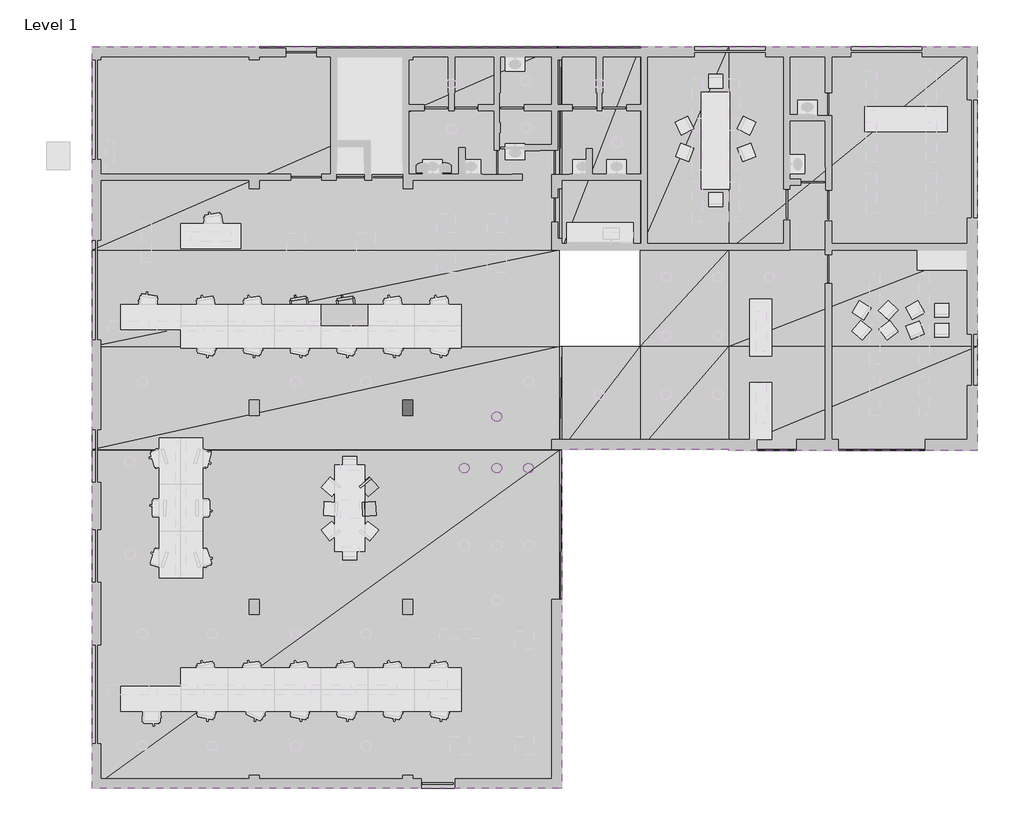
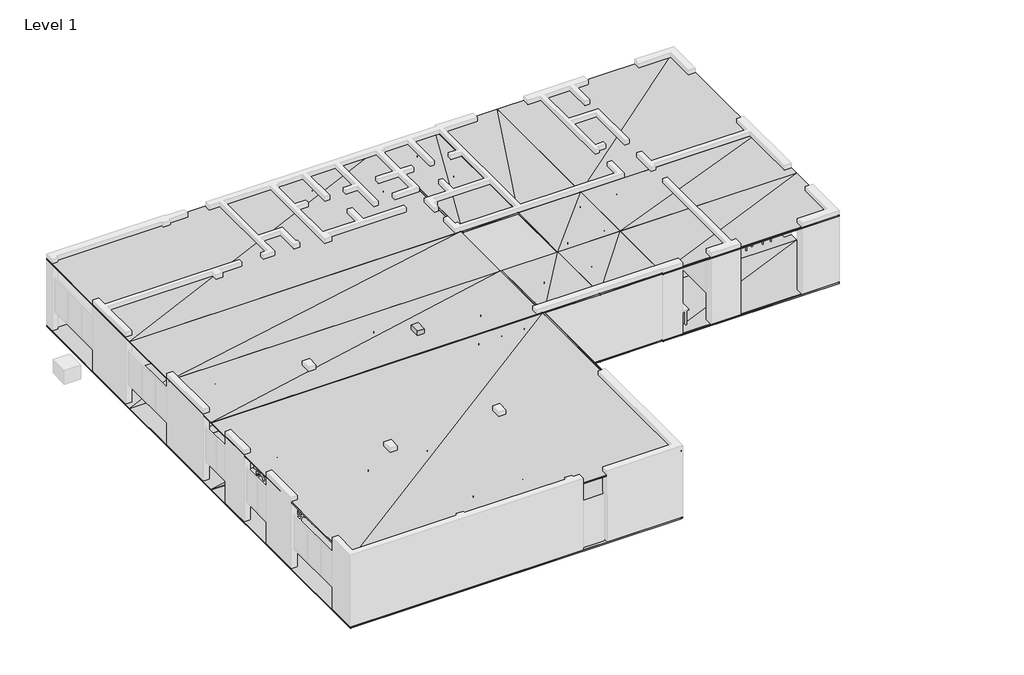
# One storey, part 8 of 14: 13 proxies.
"""IFC4 building model written with IfcOpenShell, lengths in millimetres."""

from ifc_helpers import new_model, si_unit, frame, origin, origin_with_axes, place, context, project, spatial, polyline, outline, extrude, faceted_brep, element, save

model = new_model("IFC4")

# Units and contexts
model_context = context("Model", 3, world=origin())
ifc_project = project(units=[si_unit("LENGTHUNIT", "METRE", prefix="MILLI")], contexts=[model_context])

# Site, building, storey
site = spatial("IfcSite", under=ifc_project)
building = spatial("IfcBuilding", under=site)
storey = spatial("IfcBuildingStorey", under=building, Name="Level 1", Elevation=0.0)

# Proxies
placement = place(None, origin())
element("IfcBuildingElementProxy", 1, Name="Generic Models", at=placement, inside=storey, context=model_context, shape_type="SweptSolid", body=[
    extrude(outline(polyline([(8256.826401, 14509.131432), (8256.826401, 13859.130859), (6856.826305, 13859.130859), (6856.826305, 14509.131432), (8256.826401, 14509.131432)])), frame((0.0, 0.0, 709.999979), z_axis=(0.0, 0.0, 1.0), x_axis=(1.0, 0.0, 0.0)), (0.0, 0.0, 1.0), 40.000021),
])
element("IfcBuildingElementProxy", 2, Name="Generic Models", at=placement, inside=storey, context=model_context, shape_type="Brep", body=[
    faceted_brep([(14006.0176849, 0.00035, -50.0000007), (6.8260939, 10130.0001144, -50.0000007), (14006.0176849, 10130.0001144, -50.0000007), (6.8260939, 0.00035, -50.0000007), (14006.0176849, 10130.0001144, 0.0), (6.8260939, 0.00035, 0.0), (14006.0176849, 0.00035, 0.0), (6.8260939, 10130.0001144, 0.0)], [[[0, 1, 2]], [[3, 1, 0]], [[4, 5, 6]], [[7, 5, 4]], [[6, 3, 0]], [[5, 3, 6]], [[4, 0, 2]], [[6, 0, 4]], [[7, 2, 1]], [[4, 2, 7]], [[5, 1, 3]], [[7, 1, 5]]]),
    faceted_brep([(14006.0176849, 10130.0001144, -50.0000007), (6.8260939, 10170.0000763, -50.0000007), (14006.0176849, 10170.0000763, -50.0000007), (6.8260939, 10130.0001144, -50.0000007), (14006.0176849, 10170.0000763, 0.0), (6.8260939, 10130.0001144, 0.0), (14006.0176849, 10130.0001144, 0.0), (6.8260939, 10170.0000763, 0.0)], [[[0, 1, 2]], [[3, 1, 0]], [[4, 5, 6]], [[7, 5, 4]], [[6, 3, 0]], [[5, 3, 6]], [[4, 0, 2]], [[6, 0, 4]], [[7, 2, 1]], [[4, 2, 7]], [[5, 1, 3]], [[7, 1, 5]]]),
    faceted_brep([(14006.0176849, 10170.0000763, -50.0000007), (6.8260939, 13252.0008087, -50.0000007), (14006.0176849, 13252.0008087, -50.0000007), (14006.0176849, 13252.0008087, 0.0), (6.8260939, 10170.0000763, 0.0), (14006.0176849, 10170.0000763, 0.0), (6.8260939, 10170.0000763, -50.0000007), (6.8260939, 13252.0008087, 0.0)], [[[0, 1, 2]], [[3, 4, 5]], [[4, 6, 5]], [[5, 0, 3]], [[4, 1, 6]], [[6, 1, 0]], [[7, 4, 3]], [[5, 6, 0]], [[3, 0, 2]], [[7, 2, 1]], [[3, 2, 7]], [[7, 1, 4]]]),
    faceted_brep([(14006.0176849, 16140.001297, 0.0), (6.8260939, 13252.0008087, 0.0), (14006.0176849, 13252.0008087, 0.0), (6.8260939, 13252.0008087, -50.0000007), (14006.0176849, 13252.0008087, -50.0000007), (6.8260939, 16140.001297, -50.0000007), (14006.0176849, 16140.001297, -50.0000007), (6.8260939, 16140.001297, 0.0)], [[[0, 1, 2]], [[1, 3, 2]], [[2, 4, 0]], [[1, 5, 3]], [[4, 5, 6]], [[3, 5, 4]], [[7, 1, 0]], [[2, 3, 4]], [[0, 4, 6]], [[7, 6, 5]], [[0, 6, 7]], [[7, 5, 1]]]),
    faceted_brep([(14006.0176849, 22250.0, 0.0), (6.8260939, 16140.001297, 0.0), (14006.0176849, 16140.001297, 0.0), (6.8260939, 16140.001297, -50.0000007), (14006.0176849, 16140.001297, -50.0000007), (6.8260939, 22250.0, -50.0000007), (14006.0176849, 22250.0, -50.0000007), (6.8260939, 22250.0, 0.0)], [[[0, 1, 2]], [[1, 3, 2]], [[2, 4, 0]], [[1, 5, 3]], [[4, 5, 6]], [[3, 5, 4]], [[7, 1, 0]], [[2, 3, 4]], [[0, 4, 6]], [[7, 6, 5]], [[0, 6, 7]], [[7, 5, 1]]]),
    faceted_brep([(14076.0173798, 10130.0001144, 0.0), (14006.0176849, 0.00035, 0.0), (14076.0173798, 0.00035, 0.0), (14006.0176849, 0.00035, -50.0000007), (14076.0173798, 0.00035, -50.0000007), (14006.0176849, 10130.0001144, -50.0000007), (14076.0173798, 10130.0001144, -50.0000007), (14006.0176849, 10130.0001144, 0.0)], [[[0, 1, 2]], [[1, 3, 2]], [[2, 4, 0]], [[1, 5, 3]], [[4, 5, 6]], [[3, 5, 4]], [[7, 1, 0]], [[2, 3, 4]], [[0, 4, 6]], [[7, 6, 5]], [[0, 6, 7]], [[7, 5, 1]]]),
    faceted_brep([(14006.0176849, 10170.0000763, 0.0), (14006.0176849, 10130.0001144, 0.0), (14076.0173798, 10170.0000763, 0.0), (14076.0173798, 10170.0000763, -50.0000007), (14076.0173798, 10130.0001144, -50.0000007), (14006.0176849, 10170.0000763, -50.0000007), (14006.0176849, 10130.0001144, -50.0000007), (14076.0173798, 10130.0001144, 0.0)], [[[0, 1, 2]], [[2, 3, 0]], [[4, 5, 3]], [[6, 5, 4]], [[2, 1, 7]], [[7, 6, 4]], [[1, 6, 7]], [[2, 4, 3]], [[7, 4, 2]], [[0, 3, 5]], [[1, 5, 6]], [[0, 5, 1]]]),
    faceted_brep([(14006.0176849, 13252.0008087, 0.0), (14006.0176849, 10170.0000763, 0.0), (14076.0173798, 13252.0008087, 0.0), (14076.0173798, 13252.0008087, -50.0000007), (14076.0173798, 10170.0000763, -50.0000007), (14006.0176849, 13252.0008087, -50.0000007), (14006.0176849, 10170.0000763, -50.0000007), (14076.0173798, 10170.0000763, 0.0)], [[[0, 1, 2]], [[2, 3, 0]], [[4, 5, 3]], [[6, 5, 4]], [[2, 1, 7]], [[7, 6, 4]], [[1, 6, 7]], [[2, 4, 3]], [[7, 4, 2]], [[0, 3, 5]], [[1, 5, 6]], [[0, 5, 1]]]),
    faceted_brep([(14076.0173798, 16140.001297, -50.0000007), (14006.0176849, 22250.0, -50.0000007), (14076.0173798, 22250.0, -50.0000007), (14006.0176849, 16140.001297, -50.0000007), (14076.0173798, 22250.0, 0.0), (14006.0176849, 16140.001297, 0.0), (14076.0173798, 16140.001297, 0.0), (14006.0176849, 22250.0, 0.0)], [[[0, 1, 2]], [[3, 1, 0]], [[4, 5, 6]], [[7, 5, 4]], [[6, 3, 0]], [[5, 3, 6]], [[4, 0, 2]], [[6, 0, 4]], [[7, 2, 1]], [[4, 2, 7]], [[5, 1, 3]], [[7, 1, 5]]]),
    faceted_brep([(16432.01828, 10170.0000763, -50.0000007), (14076.0173798, 13252.0008087, -50.0000007), (16432.01828, 13252.0008087, -50.0000007), (14076.0173798, 10170.0000763, -50.0000007), (16432.01828, 13252.0008087, 0.0), (14076.0173798, 10170.0000763, 0.0), (16432.01828, 10170.0000763, 0.0), (14076.0173798, 13252.0008087, 0.0)], [[[0, 1, 2]], [[3, 1, 0]], [[4, 5, 6]], [[7, 5, 4]], [[6, 3, 0]], [[5, 3, 6]], [[4, 0, 2]], [[6, 0, 4]], [[7, 2, 1]], [[4, 2, 7]], [[5, 1, 3]], [[7, 1, 5]]]),
    faceted_brep([(16432.01828, 16140.001297, -50.0000007), (14076.0173798, 22250.0, -50.0000007), (16432.01828, 22250.0, -50.0000007), (14076.0173798, 16140.001297, -50.0000007), (16432.01828, 22250.0, 0.0), (14076.0173798, 16140.001297, 0.0), (16432.01828, 16140.001297, 0.0), (14076.0173798, 22250.0, 0.0)], [[[0, 1, 2]], [[3, 1, 0]], [[4, 5, 6]], [[7, 5, 4]], [[6, 3, 0]], [[5, 3, 6]], [[4, 0, 2]], [[6, 0, 4]], [[7, 2, 1]], [[4, 2, 7]], [[5, 1, 3]], [[7, 1, 5]]]),
    faceted_brep([(19076.8260956, 10170.0000763, -50.0000007), (16432.01828, 13252.0008087, -50.0000007), (19076.8260956, 13252.0008087, -50.0000007), (16432.01828, 10170.0000763, -50.0000007), (19076.8260956, 13252.0008087, 0.0), (16432.01828, 10170.0000763, 0.0), (19076.8260956, 10170.0000763, 0.0), (16432.01828, 13252.0008087, 0.0)], [[[0, 1, 2]], [[3, 1, 0]], [[4, 5, 6]], [[7, 5, 4]], [[6, 3, 0]], [[5, 3, 6]], [[4, 0, 2]], [[6, 0, 4]], [[7, 2, 1]], [[4, 2, 7]], [[5, 1, 3]], [[7, 1, 5]]]),
    faceted_brep([(19076.8260956, 13252.0008087, -50.0000007), (16432.01828, 16140.001297, -50.0000007), (19076.8260956, 16140.001297, -50.0000007), (16432.01828, 13252.0008087, -50.0000007), (19076.8260956, 16140.001297, 0.0), (16432.01828, 13252.0008087, 0.0), (19076.8260956, 13252.0008087, 0.0), (16432.01828, 16140.001297, 0.0)], [[[0, 1, 2]], [[3, 1, 0]], [[4, 5, 6]], [[7, 5, 4]], [[6, 3, 0]], [[5, 3, 6]], [[4, 0, 2]], [[6, 0, 4]], [[7, 2, 1]], [[4, 2, 7]], [[5, 1, 3]], [[7, 1, 5]]]),
    faceted_brep([(19076.8260956, 16140.001297, -50.0000007), (16432.01828, 22250.0, -50.0000007), (19076.8260956, 22250.0, -50.0000007), (16432.01828, 16140.001297, -50.0000007), (19076.8260956, 22250.0, 0.0), (16432.01828, 16140.001297, 0.0), (19076.8260956, 16140.001297, 0.0), (16432.01828, 22250.0, 0.0)], [[[0, 1, 2]], [[3, 1, 0]], [[4, 5, 6]], [[7, 5, 4]], [[6, 3, 0]], [[5, 3, 6]], [[4, 0, 2]], [[6, 0, 4]], [[7, 2, 1]], [[4, 2, 7]], [[5, 1, 3]], [[7, 1, 5]]]),
    faceted_brep([(26536.0183716, 10130.0001144, -50.0000007), (19076.8260956, 10170.0000763, -50.0000007), (26536.0183716, 10170.0000763, -50.0000007), (19076.8260956, 10130.0001144, -50.0000007), (26536.0183716, 10170.0000763, 0.0), (19076.8260956, 10130.0001144, 0.0), (26536.0183716, 10130.0001144, 0.0), (19076.8260956, 10170.0000763, 0.0)], [[[0, 1, 2]], [[3, 1, 0]], [[4, 5, 6]], [[7, 5, 4]], [[6, 3, 0]], [[5, 3, 6]], [[4, 0, 2]], [[6, 0, 4]], [[7, 2, 1]], [[4, 2, 7]], [[5, 1, 3]], [[7, 1, 5]]]),
    faceted_brep([(26536.0183716, 10170.0000763, -50.0000007), (19076.8260956, 13252.0008087, -50.0000007), (26536.0183716, 13252.0008087, -50.0000007), (19076.8260956, 10170.0000763, -50.0000007), (26536.0183716, 13252.0008087, 0.0), (19076.8260956, 10170.0000763, 0.0), (26536.0183716, 10170.0000763, 0.0), (19076.8260956, 13252.0008087, 0.0)], [[[0, 1, 2]], [[3, 1, 0]], [[4, 5, 6]], [[7, 5, 4]], [[6, 3, 0]], [[5, 3, 6]], [[4, 0, 2]], [[6, 0, 4]], [[7, 2, 1]], [[4, 2, 7]], [[5, 1, 3]], [[7, 1, 5]]]),
    faceted_brep([(26536.0183716, 13252.0008087, -50.0000007), (19076.8260956, 16140.001297, -50.0000007), (26536.0183716, 16140.001297, -50.0000007), (19076.8260956, 13252.0008087, -50.0000007), (26536.0183716, 16140.001297, 0.0), (19076.8260956, 13252.0008087, 0.0), (26536.0183716, 13252.0008087, 0.0), (19076.8260956, 16140.001297, 0.0)], [[[0, 1, 2]], [[3, 1, 0]], [[4, 5, 6]], [[7, 5, 4]], [[6, 3, 0]], [[5, 3, 6]], [[4, 0, 2]], [[6, 0, 4]], [[7, 2, 1]], [[4, 2, 7]], [[5, 1, 3]], [[7, 1, 5]]]),
    faceted_brep([(26536.0183716, 16140.001297, -50.0000007), (19076.8260956, 22250.0, -50.0000007), (26536.0183716, 22250.0, -50.0000007), (19076.8260956, 16140.001297, -50.0000007), (26536.0183716, 22250.0, 0.0), (19076.8260956, 16140.001297, 0.0), (26536.0183716, 16140.001297, 0.0), (19076.8260956, 22250.0, 0.0)], [[[0, 1, 2]], [[3, 1, 0]], [[4, 5, 6]], [[7, 5, 4]], [[6, 3, 0]], [[5, 3, 6]], [[4, 0, 2]], [[6, 0, 4]], [[7, 2, 1]], [[4, 2, 7]], [[5, 1, 3]], [[7, 1, 5]]]),
])
element("IfcBuildingElementProxy", 3, Name="Generic Models", at=placement, inside=storey, context=model_context, shape_type="SweptSolid", body=[
    extrude(outline(polyline([(9306.017876, 11640.000343), (9606.017113, 11640.000343), (9606.017113, 11190.000534), (9306.017876, 11190.000534), (9306.017876, 11640.000343)])), origin_with_axes(), (0.0, 0.0, 1.0), 3200.000048),
])
element("IfcBuildingElementProxy", 4, Name="Generic Models", at=placement, inside=storey, context=model_context, shape_type="Brep", body=[
    faceted_brep([(14006.0176849, 0.00035, 2950.0000477), (6.8260939, 10130.0001144, 2950.0000477), (14006.0176849, 10130.0001144, 2950.0000477), (6.8260939, 0.00035, 2950.0000477), (14006.0176849, 10130.0001144, 3000.0), (6.8260939, 0.00035, 3000.0), (14006.0176849, 0.00035, 3000.0), (6.8260939, 10130.0001144, 3000.0)], [[[0, 1, 2]], [[3, 1, 0]], [[4, 5, 6]], [[7, 5, 4]], [[6, 3, 0]], [[5, 3, 6]], [[4, 0, 2]], [[6, 0, 4]], [[7, 2, 1]], [[4, 2, 7]], [[5, 1, 3]], [[7, 1, 5]]]),
    faceted_brep([(14006.0176849, 10130.0001144, 2950.0000477), (6.8260939, 10170.0000763, 2950.0000477), (14006.0176849, 10170.0000763, 2950.0000477), (6.8260939, 10130.0001144, 2950.0000477), (14006.0176849, 10170.0000763, 3000.0), (6.8260939, 10130.0001144, 3000.0), (14006.0176849, 10130.0001144, 3000.0), (6.8260939, 10170.0000763, 3000.0)], [[[0, 1, 2]], [[3, 1, 0]], [[4, 5, 6]], [[7, 5, 4]], [[6, 3, 0]], [[5, 3, 6]], [[4, 0, 2]], [[6, 0, 4]], [[7, 2, 1]], [[4, 2, 7]], [[5, 1, 3]], [[7, 1, 5]]]),
    faceted_brep([(14006.0176849, 10170.0000763, 2950.0000477), (6.8260939, 13252.0008087, 2950.0000477), (14006.0176849, 13252.0008087, 2950.0000477), (14006.0176849, 13252.0008087, 3000.0), (6.8260939, 10170.0000763, 3000.0), (14006.0176849, 10170.0000763, 3000.0), (6.8260939, 10170.0000763, 2950.0000477), (6.8260939, 13252.0008087, 3000.0)], [[[0, 1, 2]], [[3, 4, 5]], [[4, 6, 5]], [[5, 0, 3]], [[4, 1, 6]], [[6, 1, 0]], [[7, 4, 3]], [[5, 6, 0]], [[3, 0, 2]], [[7, 2, 1]], [[3, 2, 7]], [[7, 1, 4]]]),
    faceted_brep([(14006.0176849, 16140.001297, 3000.0), (6.8260939, 13252.0008087, 3000.0), (14006.0176849, 13252.0008087, 3000.0), (6.8260939, 13252.0008087, 2950.0000477), (14006.0176849, 13252.0008087, 2950.0000477), (6.8260939, 16140.001297, 2950.0000477), (14006.0176849, 16140.001297, 2950.0000477), (6.8260939, 16140.001297, 3000.0)], [[[0, 1, 2]], [[1, 3, 2]], [[2, 4, 0]], [[1, 5, 3]], [[4, 5, 6]], [[3, 5, 4]], [[7, 1, 0]], [[2, 3, 4]], [[0, 4, 6]], [[7, 6, 5]], [[0, 6, 7]], [[7, 5, 1]]]),
    faceted_brep([(14006.0176849, 22250.0, 3000.0), (6.8260939, 16140.001297, 3000.0), (14006.0176849, 16140.001297, 3000.0), (6.8260939, 16140.001297, 2950.0000477), (14006.0176849, 16140.001297, 2950.0000477), (6.8260939, 22250.0, 2950.0000477), (14006.0176849, 22250.0, 2950.0000477), (6.8260939, 22250.0, 3000.0)], [[[0, 1, 2]], [[1, 3, 2]], [[2, 4, 0]], [[1, 5, 3]], [[4, 5, 6]], [[3, 5, 4]], [[7, 1, 0]], [[2, 3, 4]], [[0, 4, 6]], [[7, 6, 5]], [[0, 6, 7]], [[7, 5, 1]]]),
    faceted_brep([(14076.0173798, 10130.0001144, 3000.0), (14006.0176849, 0.00035, 3000.0), (14076.0173798, 0.00035, 3000.0), (14006.0176849, 0.00035, 2950.0000477), (14076.0173798, 0.00035, 2950.0000477), (14006.0176849, 10130.0001144, 2950.0000477), (14076.0173798, 10130.0001144, 2950.0000477), (14006.0176849, 10130.0001144, 3000.0)], [[[0, 1, 2]], [[1, 3, 2]], [[2, 4, 0]], [[1, 5, 3]], [[4, 5, 6]], [[3, 5, 4]], [[7, 1, 0]], [[2, 3, 4]], [[0, 4, 6]], [[7, 6, 5]], [[0, 6, 7]], [[7, 5, 1]]]),
    faceted_brep([(14006.0176849, 10170.0000763, 3000.0), (14006.0176849, 10130.0001144, 3000.0), (14076.0173798, 10170.0000763, 3000.0), (14076.0173798, 10170.0000763, 2950.0000477), (14076.0173798, 10130.0001144, 2950.0000477), (14006.0176849, 10170.0000763, 2950.0000477), (14006.0176849, 10130.0001144, 2950.0000477), (14076.0173798, 10130.0001144, 3000.0)], [[[0, 1, 2]], [[2, 3, 0]], [[4, 5, 3]], [[6, 5, 4]], [[2, 1, 7]], [[7, 6, 4]], [[1, 6, 7]], [[2, 4, 3]], [[7, 4, 2]], [[0, 3, 5]], [[1, 5, 6]], [[0, 5, 1]]]),
    faceted_brep([(14006.0176849, 13252.0008087, 3000.0), (14006.0176849, 10170.0000763, 3000.0), (14076.0173798, 13252.0008087, 3000.0), (14076.0173798, 13252.0008087, 2950.0000477), (14076.0173798, 10170.0000763, 2950.0000477), (14006.0176849, 13252.0008087, 2950.0000477), (14006.0176849, 10170.0000763, 2950.0000477), (14076.0173798, 10170.0000763, 3000.0)], [[[0, 1, 2]], [[2, 3, 0]], [[4, 5, 3]], [[6, 5, 4]], [[2, 1, 7]], [[7, 6, 4]], [[1, 6, 7]], [[2, 4, 3]], [[7, 4, 2]], [[0, 3, 5]], [[1, 5, 6]], [[0, 5, 1]]]),
    faceted_brep([(14076.0173798, 16140.001297, 2950.0000477), (14006.0176849, 22250.0, 2950.0000477), (14076.0173798, 22250.0, 2950.0000477), (14006.0176849, 16140.001297, 2950.0000477), (14076.0173798, 22250.0, 3000.0), (14006.0176849, 16140.001297, 3000.0), (14076.0173798, 16140.001297, 3000.0), (14006.0176849, 22250.0, 3000.0)], [[[0, 1, 2]], [[3, 1, 0]], [[4, 5, 6]], [[7, 5, 4]], [[6, 3, 0]], [[5, 3, 6]], [[4, 0, 2]], [[6, 0, 4]], [[7, 2, 1]], [[4, 2, 7]], [[5, 1, 3]], [[7, 1, 5]]]),
    faceted_brep([(16432.01828, 10170.0000763, 2950.0000477), (14076.0173798, 13252.0008087, 2950.0000477), (16432.01828, 13252.0008087, 2950.0000477), (14076.0173798, 10170.0000763, 2950.0000477), (16432.01828, 13252.0008087, 3000.0), (14076.0173798, 10170.0000763, 3000.0), (16432.01828, 10170.0000763, 3000.0), (14076.0173798, 13252.0008087, 3000.0)], [[[0, 1, 2]], [[3, 1, 0]], [[4, 5, 6]], [[7, 5, 4]], [[6, 3, 0]], [[5, 3, 6]], [[4, 0, 2]], [[6, 0, 4]], [[7, 2, 1]], [[4, 2, 7]], [[5, 1, 3]], [[7, 1, 5]]]),
    faceted_brep([(16432.01828, 16140.001297, 2950.0000477), (14076.0173798, 22250.0, 2950.0000477), (16432.01828, 22250.0, 2950.0000477), (14076.0173798, 16140.001297, 2950.0000477), (16432.01828, 22250.0, 3000.0), (14076.0173798, 16140.001297, 3000.0), (16432.01828, 16140.001297, 3000.0), (14076.0173798, 22250.0, 3000.0)], [[[0, 1, 2]], [[3, 1, 0]], [[4, 5, 6]], [[7, 5, 4]], [[6, 3, 0]], [[5, 3, 6]], [[4, 0, 2]], [[6, 0, 4]], [[7, 2, 1]], [[4, 2, 7]], [[5, 1, 3]], [[7, 1, 5]]]),
    faceted_brep([(19076.8260956, 10170.0000763, 2950.0000477), (16432.01828, 13252.0008087, 2950.0000477), (19076.8260956, 13252.0008087, 2950.0000477), (16432.01828, 10170.0000763, 2950.0000477), (19076.8260956, 13252.0008087, 3000.0), (16432.01828, 10170.0000763, 3000.0), (19076.8260956, 10170.0000763, 3000.0), (16432.01828, 13252.0008087, 3000.0)], [[[0, 1, 2]], [[3, 1, 0]], [[4, 5, 6]], [[7, 5, 4]], [[6, 3, 0]], [[5, 3, 6]], [[4, 0, 2]], [[6, 0, 4]], [[7, 2, 1]], [[4, 2, 7]], [[5, 1, 3]], [[7, 1, 5]]]),
    faceted_brep([(19076.8260956, 13252.0008087, 2950.0000477), (16432.01828, 16140.001297, 2950.0000477), (19076.8260956, 16140.001297, 2950.0000477), (16432.01828, 13252.0008087, 2950.0000477), (19076.8260956, 16140.001297, 3000.0), (16432.01828, 13252.0008087, 3000.0), (19076.8260956, 13252.0008087, 3000.0), (16432.01828, 16140.001297, 3000.0)], [[[0, 1, 2]], [[3, 1, 0]], [[4, 5, 6]], [[7, 5, 4]], [[6, 3, 0]], [[5, 3, 6]], [[4, 0, 2]], [[6, 0, 4]], [[7, 2, 1]], [[4, 2, 7]], [[5, 1, 3]], [[7, 1, 5]]]),
    faceted_brep([(19076.8260956, 16140.001297, 2950.0000477), (16432.01828, 22250.0, 2950.0000477), (19076.8260956, 22250.0, 2950.0000477), (16432.01828, 16140.001297, 2950.0000477), (19076.8260956, 22250.0, 3000.0), (16432.01828, 16140.001297, 3000.0), (19076.8260956, 16140.001297, 3000.0), (16432.01828, 22250.0, 3000.0)], [[[0, 1, 2]], [[3, 1, 0]], [[4, 5, 6]], [[7, 5, 4]], [[6, 3, 0]], [[5, 3, 6]], [[4, 0, 2]], [[6, 0, 4]], [[7, 2, 1]], [[4, 2, 7]], [[5, 1, 3]], [[7, 1, 5]]]),
    faceted_brep([(26536.0183716, 10130.0001144, 2950.0000477), (19076.8260956, 10170.0000763, 2950.0000477), (26536.0183716, 10170.0000763, 2950.0000477), (19076.8260956, 10130.0001144, 2950.0000477), (26536.0183716, 10170.0000763, 3000.0), (19076.8260956, 10130.0001144, 3000.0), (26536.0183716, 10130.0001144, 3000.0), (19076.8260956, 10170.0000763, 3000.0)], [[[0, 1, 2]], [[3, 1, 0]], [[4, 5, 6]], [[7, 5, 4]], [[6, 3, 0]], [[5, 3, 6]], [[4, 0, 2]], [[6, 0, 4]], [[7, 2, 1]], [[4, 2, 7]], [[5, 1, 3]], [[7, 1, 5]]]),
    faceted_brep([(26536.0183716, 10170.0000763, 2950.0000477), (19076.8260956, 13252.0008087, 2950.0000477), (26536.0183716, 13252.0008087, 2950.0000477), (19076.8260956, 10170.0000763, 2950.0000477), (26536.0183716, 13252.0008087, 3000.0), (19076.8260956, 10170.0000763, 3000.0), (26536.0183716, 10170.0000763, 3000.0), (19076.8260956, 13252.0008087, 3000.0)], [[[0, 1, 2]], [[3, 1, 0]], [[4, 5, 6]], [[7, 5, 4]], [[6, 3, 0]], [[5, 3, 6]], [[4, 0, 2]], [[6, 0, 4]], [[7, 2, 1]], [[4, 2, 7]], [[5, 1, 3]], [[7, 1, 5]]]),
    faceted_brep([(26536.0183716, 13252.0008087, 2950.0000477), (19076.8260956, 16140.001297, 2950.0000477), (26536.0183716, 16140.001297, 2950.0000477), (19076.8260956, 13252.0008087, 2950.0000477), (26536.0183716, 16140.001297, 3000.0), (19076.8260956, 13252.0008087, 3000.0), (26536.0183716, 13252.0008087, 3000.0), (19076.8260956, 16140.001297, 3000.0)], [[[0, 1, 2]], [[3, 1, 0]], [[4, 5, 6]], [[7, 5, 4]], [[6, 3, 0]], [[5, 3, 6]], [[4, 0, 2]], [[6, 0, 4]], [[7, 2, 1]], [[4, 2, 7]], [[5, 1, 3]], [[7, 1, 5]]]),
    faceted_brep([(26536.0183716, 16140.001297, 2950.0000477), (19076.8260956, 22250.0, 2950.0000477), (26536.0183716, 22250.0, 2950.0000477), (19076.8260956, 16140.001297, 2950.0000477), (26536.0183716, 22250.0, 3000.0), (19076.8260956, 16140.001297, 3000.0), (26536.0183716, 16140.001297, 3000.0), (19076.8260956, 22250.0, 3000.0)], [[[0, 1, 2]], [[3, 1, 0]], [[4, 5, 6]], [[7, 5, 4]], [[6, 3, 0]], [[5, 3, 6]], [[4, 0, 2]], [[6, 0, 4]], [[7, 2, 1]], [[4, 2, 7]], [[5, 1, 3]], [[7, 1, 5]]]),
])
element("IfcBuildingElementProxy", 5, Name="Generic Models", at=placement, inside=storey, context=model_context, shape_type="SweptSolid", body=[
    extrude(outline(polyline([(12262.160301, 11093.606949), (12248.542786, 11068.130493), (12230.21698, 11045.800209), (12207.886696, 11027.474403), (12182.41024, 11013.856888), (12154.766083, 11005.47123), (12126.01757, 11002.639771), (12097.269058, 11005.47123), (12069.624901, 11013.856888), (12044.148445, 11027.474403), (12021.818161, 11045.800209), (12003.492355, 11068.130493), (11989.87484, 11093.606949), (11981.489182, 11121.251106), (11978.657722, 11149.999619), (11981.489182, 11178.748131), (11989.87484, 11206.392288), (12003.492355, 11231.868744), (12021.818161, 11254.199028), (12044.148445, 11272.524834), (12069.624901, 11286.142349), (12097.269058, 11294.528008), (12126.01757, 11297.359467), (12154.766083, 11294.528008), (12182.41024, 11286.142349), (12207.886696, 11272.524834), (12230.21698, 11254.199028), (12248.542786, 11231.868744), (12262.160301, 11206.392288), (12270.545959, 11178.748131), (12273.377419, 11149.999619), (12270.545959, 11121.251106), (12262.160301, 11093.606949)])), frame((0.0, 0.0, 2910.000086), z_axis=(0.0, 0.0, 1.0), x_axis=(1.0, 0.0, 0.0)), (0.0, 0.0, 1.0), 39.999962),
])
element("IfcBuildingElementProxy", 6, Name="Generic Models", at=placement, inside=storey, context=model_context, shape_type="SweptSolid", body=[
    extrude(outline(polyline([(13212.161064, 9549.167633), (13198.543549, 9523.691177), (13180.217743, 9501.360893), (13157.887459, 9483.035088), (13132.411003, 9469.417572), (13104.766846, 9461.031914), (13076.018333, 9458.200455), (13047.269821, 9461.031914), (13019.625664, 9469.417572), (12994.149208, 9483.035088), (12971.818924, 9501.360893), (12953.493118, 9523.691177), (12939.875603, 9549.167633), (12931.489944, 9576.81179), (12928.658485, 9605.560303), (12931.489944, 9634.308815), (12939.875603, 9661.952972), (12953.493118, 9687.429428), (12971.818924, 9709.759712), (12994.149208, 9728.085518), (13019.625664, 9741.703033), (13047.269821, 9750.088692), (13076.018333, 9752.920151), (13104.766846, 9750.088692), (13132.411003, 9741.703033), (13157.887459, 9728.085518), (13180.217743, 9709.759712), (13198.543549, 9687.429428), (13212.161064, 9661.952972), (13220.546722, 9634.308815), (13223.378181, 9605.560303), (13220.546722, 9576.81179), (13212.161064, 9549.167633)])), frame((0.0, 0.0, 2910.000086), z_axis=(0.0, 0.0, 1.0), x_axis=(1.0, 0.0, 0.0)), (0.0, 0.0, 1.0), 39.999962),
])
element("IfcBuildingElementProxy", 7, Name="Generic Models", at=placement, inside=storey, context=model_context, shape_type="SweptSolid", body=[
    extrude(outline(polyline([(12262.160301, 9549.167633), (12248.542786, 9523.691177), (12230.21698, 9501.360893), (12207.886696, 9483.035088), (12182.41024, 9469.417572), (12154.766083, 9461.031914), (12126.01757, 9458.200455), (12097.269058, 9461.031914), (12069.624901, 9469.417572), (12044.148445, 9483.035088), (12021.818161, 9501.360893), (12003.492355, 9523.691177), (11989.87484, 9549.167633), (11981.489182, 9576.81179), (11978.657722, 9605.560303), (11981.489182, 9634.308815), (11989.87484, 9661.952972), (12003.492355, 9687.429428), (12021.818161, 9709.759712), (12044.148445, 9728.085518), (12069.624901, 9741.703033), (12097.269058, 9750.088692), (12126.01757, 9752.920151), (12154.766083, 9750.088692), (12182.41024, 9741.703033), (12207.886696, 9728.085518), (12230.21698, 9709.759712), (12248.542786, 9687.429428), (12262.160301, 9661.952972), (12270.545959, 9634.308815), (12273.377419, 9605.560303), (12270.545959, 9576.81179), (12262.160301, 9549.167633)])), frame((0.0, 0.0, 2910.000086), z_axis=(0.0, 0.0, 1.0), x_axis=(1.0, 0.0, 0.0)), (0.0, 0.0, 1.0), 39.999962),
])
element("IfcBuildingElementProxy", 8, Name="Generic Models", at=placement, inside=storey, context=model_context, shape_type="SweptSolid", body=[
    extrude(outline(polyline([(11287.160873, 9549.167633), (11273.543358, 9523.691177), (11255.217552, 9501.360893), (11232.887268, 9483.035088), (11207.410812, 9469.417572), (11179.766655, 9461.031914), (11151.018143, 9458.200455), (11122.26963, 9461.031914), (11094.625473, 9469.417572), (11069.149017, 9483.035088), (11046.818733, 9501.360893), (11028.492928, 9523.691177), (11014.875412, 9549.167633), (11006.489754, 9576.81179), (11003.658295, 9605.560303), (11006.489754, 9634.308815), (11014.875412, 9661.952972), (11028.492928, 9687.429428), (11046.818733, 9709.759712), (11069.149017, 9728.085518), (11094.625473, 9741.703033), (11122.26963, 9750.088692), (11151.018143, 9752.920151), (11179.766655, 9750.088692), (11207.410812, 9741.703033), (11232.887268, 9728.085518), (11255.217552, 9709.759712), (11273.543358, 9687.429428), (11287.160873, 9661.952972), (11295.546532, 9634.308815), (11298.377991, 9605.560303), (11295.546532, 9576.81179), (11287.160873, 9549.167633)])), frame((0.0, 0.0, 2910.000086), z_axis=(0.0, 0.0, 1.0), x_axis=(1.0, 0.0, 0.0)), (0.0, 0.0, 1.0), 39.999962),
])
element("IfcBuildingElementProxy", 9, Name="Generic Models", at=placement, inside=storey, context=model_context, shape_type="SweptSolid", body=[
    extrude(outline(polyline([(8267.810822, 8834.292412), (8286.354065, 8813.313484), (8265.375137, 8794.769287), (8246.831894, 8815.749168), (8267.810822, 8834.292412)])), frame((0.0, 0.0, 50.000001), z_axis=(0.0, 0.0, 1.0), x_axis=(1.0, 0.0, 0.0)), (0.0, 0.0, 1.0), 389.999997),
    extrude(outline(polyline([(8055.878639, 9074.052811), (8074.422836, 9053.073883), (8053.443909, 9034.53064), (8034.899712, 9055.509567), (8055.878639, 9074.052811)])), frame((0.0, 0.0, 50.000001), z_axis=(0.0, 0.0, 1.0), x_axis=(1.0, 0.0, 0.0)), (0.0, 0.0, 1.0), 389.999997),
    extrude(outline(polyline([(8522.556305, 9059.470177), (8541.099548, 9038.491249), (8520.120621, 9019.947052), (8501.577377, 9040.92598), (8522.556305, 9059.470177)])), frame((0.0, 0.0, 50.000001), z_axis=(0.0, 0.0, 1.0), x_axis=(1.0, 0.0, 0.0)), (0.0, 0.0, 1.0), 389.999997),
    extrude(outline(polyline([(8310.624123, 9299.230576), (8329.16832, 9278.251648), (8308.189392, 9259.707451), (8289.645195, 9280.686378), (8310.624123, 9299.230576)])), frame((0.0, 0.0, 50.000001), z_axis=(0.0, 0.0, 1.0), x_axis=(1.0, 0.0, 0.0)), (0.0, 0.0, 1.0), 389.999997),
    extrude(outline(polyline([(8319.508553, 9328.437805), (8359.2453, 9283.482552), (8044.560432, 9005.322456), (8004.822731, 9050.27771), (8319.508553, 9328.437805)])), frame((0.0, 0.0, 460.000008), z_axis=(0.0, 0.0, 1.0), x_axis=(1.0, 0.0, 0.0)), (0.0, 0.0, 1.0), 400.000006),
    extrude(outline(polyline([(8306.26297, 9343.42289), (8584.423065, 9028.737068), (8269.737244, 8750.576973), (7991.577148, 9065.262794), (8306.26297, 9343.42289)])), frame((0.0, 0.0, 417.499989), z_axis=(0.0, 0.0, 1.0), x_axis=(1.0, 0.0, 0.0)), (0.0, 0.0, 1.0), 55.000007),
])
element("IfcBuildingElementProxy", 10, Name="Generic Models", at=placement, inside=storey, context=model_context, shape_type="SweptSolid", body=[
    extrude(outline(polyline([(8440.974236, 8231.832504), (8468.94455, 8233.111382), (8470.22438, 8205.141068), (8442.253113, 8203.86219), (8440.974236, 8231.832504)])), frame((0.0, 0.0, 50.000001), z_axis=(0.0, 0.0, 1.0), x_axis=(1.0, 0.0, 0.0)), (0.0, 0.0, 1.0), 389.999997),
    extrude(outline(polyline([(8121.308327, 8217.213631), (8149.278641, 8218.493462), (8150.558472, 8190.522194), (8122.587204, 8189.243317), (8121.308327, 8217.213631)])), frame((0.0, 0.0, 50.000001), z_axis=(0.0, 0.0, 1.0), x_axis=(1.0, 0.0, 0.0)), (0.0, 0.0, 1.0), 389.999997),
    extrude(outline(polyline([(8425.441742, 8571.47789), (8453.41301, 8572.756767), (8454.691887, 8544.786453), (8426.720619, 8543.506622), (8425.441742, 8571.47789)])), frame((0.0, 0.0, 50.000001), z_axis=(0.0, 0.0, 1.0), x_axis=(1.0, 0.0, 0.0)), (0.0, 0.0, 1.0), 389.999997),
    extrude(outline(polyline([(8105.775833, 8556.859016), (8133.747101, 8558.137894), (8135.025978, 8530.16758), (8107.05471, 8528.888702), (8105.775833, 8556.859016)])), frame((0.0, 0.0, 50.000001), z_axis=(0.0, 0.0, 1.0), x_axis=(1.0, 0.0, 0.0)), (0.0, 0.0, 1.0), 389.999997),
    extrude(outline(polyline([(8088.604927, 8582.100868), (8148.542404, 8584.841728), (8167.729378, 8165.280342), (8107.791901, 8162.539482), (8088.604927, 8582.100868)])), frame((0.0, 0.0, 460.000008), z_axis=(0.0, 0.0, 1.0), x_axis=(1.0, 0.0, 0.0)), (0.0, 0.0, 1.0), 400.000006),
    extrude(outline(polyline([(8068.62545, 8581.187248), (8488.186836, 8600.374222), (8507.37381, 8180.812836), (8087.812424, 8161.625862), (8068.62545, 8581.187248)])), frame((0.0, 0.0, 417.499989), z_axis=(0.0, 0.0, 1.0), x_axis=(1.0, 0.0, 0.0)), (0.0, 0.0, 1.0), 55.000007),
])
element("IfcBuildingElementProxy", 11, Name="Generic Models", at=placement, inside=storey, context=model_context, shape_type="SweptSolid", body=[
    extrude(outline(polyline([(8204.32663, 13934.130669), (8159.326553, 13934.130669), (8159.326553, 14434.131622), (8204.32663, 14434.131622), (8204.32663, 13934.130669)])), frame((0.0, 0.0, 639.999986), z_axis=(0.0, 0.0, 1.0), x_axis=(1.0, 0.0, 0.0)), (0.0, 0.0, 1.0), 69.999993),
    extrude(outline(polyline([(6954.326153, 13934.130669), (6909.326077, 13934.130669), (6909.326077, 14434.131622), (6954.326153, 14434.131622), (6954.326153, 13934.130669)])), frame((0.0, 0.0, 639.999986), z_axis=(0.0, 0.0, 1.0), x_axis=(1.0, 0.0, 0.0)), (0.0, 0.0, 1.0), 69.999993),
    extrude(outline(polyline([(6931.826115, 14411.631584), (6931.826115, 14456.63166), (8181.826591, 14456.63166), (8181.826591, 14411.631584), (6931.826115, 14411.631584)])), frame((0.0, 0.0, 639.999986), z_axis=(0.0, 0.0, 1.0), x_axis=(1.0, 0.0, 0.0)), (0.0, 0.0, 1.0), 69.999993),
    extrude(outline(polyline([(6931.826115, 13911.63063), (6931.826115, 13956.630707), (8181.826591, 13956.630707), (8181.826591, 13911.63063), (6931.826115, 13911.63063)])), frame((0.0, 0.0, 639.999986), z_axis=(0.0, 0.0, 1.0), x_axis=(1.0, 0.0, 0.0)), (0.0, 0.0, 1.0), 69.999993),
    extrude(outline(polyline([(8157.45163, 14409.75666), (8157.45163, 14458.506584), (8206.201553, 14458.506584), (8206.201553, 14409.75666), (8157.45163, 14409.75666)])), frame((0.0, 0.0, 50.000001), z_axis=(0.0, 0.0, 1.0), x_axis=(1.0, 0.0, 0.0)), (0.0, 0.0, 1.0), 659.999978),
    extrude(outline(polyline([(8157.45163, 13909.755707), (8157.45163, 13958.50563), (8206.201553, 13958.50563), (8206.201553, 13909.755707), (8157.45163, 13909.755707)])), frame((0.0, 0.0, 50.000001), z_axis=(0.0, 0.0, 1.0), x_axis=(1.0, 0.0, 0.0)), (0.0, 0.0, 1.0), 659.999978),
    extrude(outline(polyline([(6907.451153, 14409.75666), (6907.451153, 14458.506584), (6956.201553, 14458.506584), (6956.201553, 14409.75666), (6907.451153, 14409.75666)])), frame((0.0, 0.0, 50.000001), z_axis=(0.0, 0.0, 1.0), x_axis=(1.0, 0.0, 0.0)), (0.0, 0.0, 1.0), 659.999978),
    extrude(outline(polyline([(6907.451153, 13909.755707), (6907.451153, 13958.50563), (6956.201553, 13958.50563), (6956.201553, 13909.755707), (6907.451153, 13909.755707)])), frame((0.0, 0.0, 50.000001), z_axis=(0.0, 0.0, 1.0), x_axis=(1.0, 0.0, 0.0)), (0.0, 0.0, 1.0), 659.999978),
])
element("IfcBuildingElementProxy", 12, Name="Generic Models", at=placement, inside=storey, context=model_context, shape_type="SweptSolid", body=[
    extrude(outline(polyline([(5977.145195, 14484.13372), (5981.773376, 14454.493523), (5952.132225, 14449.865341), (5947.504044, 14479.505539), (5977.145195, 14484.13372)])), frame((0.0, 0.0, 439.999998), z_axis=(0.0, 0.0, 1.0), x_axis=(1.0, 0.0, 0.0)), (0.0, 0.0, 1.0), 199.999988),
    extrude(outline(polyline([(5955.702305, 14637.663841), (6008.1563, 14301.734924), (5973.575115, 14296.33522), (5921.12112, 14632.264137), (5955.702305, 14637.663841)])), frame((0.0, 0.0, 612.500012), z_axis=(0.0, 0.0, 1.0), x_axis=(1.0, 0.0, 0.0)), (0.0, 0.0, 1.0), 34.999967),
    extrude(outline(polyline([(6017.224312, 14664.982796), (6021.080971, 14640.281677), (5996.380329, 14636.425018), (5992.52367, 14661.126137), (6017.224312, 14664.982796)])), frame((0.0, 0.0, 460.000008), z_axis=(0.0, 0.0, 1.0), x_axis=(1.0, 0.0, 0.0)), (0.0, 0.0, 1.0), 400.000006),
    extrude(outline(polyline([(6471.158981, 14561.272621), (6475.787163, 14531.63147), (6446.146488, 14527.003288), (6441.51783, 14556.64444), (6471.158981, 14561.272621)])), frame((0.0, 0.0, 439.999998), z_axis=(0.0, 0.0, 1.0), x_axis=(1.0, 0.0, 0.0)), (0.0, 0.0, 1.0), 199.999988),
    extrude(outline(polyline([(6449.716091, 14714.802742), (6502.170086, 14378.872871), (6467.588902, 14373.473167), (6415.134907, 14709.403038), (6449.716091, 14714.802742)])), frame((0.0, 0.0, 612.500012), z_axis=(0.0, 0.0, 1.0), x_axis=(1.0, 0.0, 0.0)), (0.0, 0.0, 1.0), 34.999967),
    extrude(outline(polyline([(6372.914314, 14720.521927), (6376.770973, 14695.821762), (6352.070332, 14691.964149), (6348.213673, 14716.665268), (6372.914314, 14720.521927)])), frame((0.0, 0.0, 460.000008), z_axis=(0.0, 0.0, 1.0), x_axis=(1.0, 0.0, 0.0)), (0.0, 0.0, 1.0), 400.000006),
    extrude(outline(polyline([(6404.951096, 14758.418083), (6415.750504, 14689.256668), (5961.257935, 14618.288994), (5950.458527, 14687.451363), (6404.951096, 14758.418083)])), frame((0.0, 0.0, 460.000008), z_axis=(0.0, 0.0, 1.0), x_axis=(1.0, 0.0, 0.0)), (0.0, 0.0, 1.0), 479.99999),
    extrude(outline(polyline([(6404.18005, 14763.358116), (6468.976021, 14348.386765), (6014.482975, 14277.420044), (5949.687004, 14692.391396), (6404.18005, 14763.358116)])), frame((0.0, 0.0, 400.000006), z_axis=(0.0, 0.0, 1.0), x_axis=(1.0, 0.0, 0.0)), (0.0, 0.0, 1.0), 69.999993),
    extrude(outline(polyline([(6226.831436, 14490.077972), (6209.331512, 14485.388756), (6191.831589, 14490.077972), (6179.020405, 14502.88868), (6174.331665, 14520.389557), (6179.020405, 14537.889481), (6191.831589, 14550.700188), (6209.331512, 14555.389404), (6226.831436, 14550.700188), (6239.64262, 14537.889481), (6244.33136, 14520.389557), (6239.64262, 14502.88868), (6226.831436, 14490.077972)])), frame((0.0, 0.0, 115.000002), z_axis=(0.0, 0.0, 1.0), x_axis=(1.0, 0.0, 0.0)), (0.0, 0.0, 1.0), 280.000009),
    extrude(outline(polyline([(6122.041225, 14742.408752), (6081.90155, 14722.066879), (6057.039261, 14771.126747), (6097.178936, 14791.46862), (6122.041225, 14742.408752)])), frame((0.0, 0.0, 35.0), z_axis=(0.0, 0.0, 1.0), x_axis=(1.0, 0.0, 0.0)), (0.0, 0.0, 1.0), 59.999999),
    extrude(outline(polyline([(6227.201462, 14523.839951), (6195.981979, 14508.018494), (6060.369015, 14775.617599), (6091.588974, 14791.439056), (6227.201462, 14523.839951)])), frame((0.0, 0.0, 82.500003), z_axis=(0.0, 0.0, 1.0), x_axis=(1.0, 0.0, 0.0)), (0.0, 0.0, 1.0), 34.999997),
    extrude(outline(polyline([(6393.510818, 14672.01519), (6361.760616, 14703.904152), (6400.736332, 14742.710114), (6432.486534, 14710.821152), (6393.510818, 14672.01519)])), frame((0.0, 0.0, 35.0), z_axis=(0.0, 0.0, 1.0), x_axis=(1.0, 0.0, 0.0)), (0.0, 0.0, 1.0), 59.999999),
    extrude(outline(polyline([(6218.135357, 14504.460335), (6193.440914, 14529.262543), (6406.0359, 14740.930557), (6430.730343, 14716.128349), (6218.135357, 14504.460335)])), frame((0.0, 0.0, 82.500003), z_axis=(0.0, 0.0, 1.0), x_axis=(1.0, 0.0, 0.0)), (0.0, 0.0, 1.0), 34.999997),
    extrude(outline(polyline([(6410.450935, 14392.079353), (6430.968285, 14432.12986), (6479.918957, 14407.052994), (6459.401608, 14367.002487), (6410.450935, 14392.079353)])), frame((0.0, 0.0, 35.0), z_axis=(0.0, 0.0, 1.0), x_axis=(1.0, 0.0, 0.0)), (0.0, 0.0, 1.0), 59.999999),
    extrude(outline(polyline([(6196.902752, 14507.09343), (6212.860107, 14538.244247), (6479.86412, 14401.463509), (6463.906288, 14370.312691), (6196.902752, 14507.09343)])), frame((0.0, 0.0, 82.500003), z_axis=(0.0, 0.0, 1.0), x_axis=(1.0, 0.0, 0.0)), (0.0, 0.0, 1.0), 34.999997),
    extrude(outline(polyline([(6149.450779, 14289.463043), (6193.881035, 14282.326698), (6185.15873, 14228.022575), (6140.727997, 14235.15892), (6149.450779, 14289.463043)])), frame((0.0, 0.0, 35.0), z_axis=(0.0, 0.0, 1.0), x_axis=(1.0, 0.0, 0.0)), (0.0, 0.0, 1.0), 59.999999),
    extrude(outline(polyline([(6192.845821, 14528.100967), (6227.403164, 14522.550583), (6179.825306, 14226.34697), (6145.26844, 14231.898308), (6192.845821, 14528.100967)])), frame((0.0, 0.0, 82.500003), z_axis=(0.0, 0.0, 1.0), x_axis=(1.0, 0.0, 0.0)), (0.0, 0.0, 1.0), 34.999997),
    extrude(outline(polyline([(5971.203804, 14505.979538), (5978.146076, 14461.518288), (5923.80476, 14453.032494), (5916.862011, 14497.493744), (5971.203804, 14505.979538)])), frame((0.0, 0.0, 35.0), z_axis=(0.0, 0.0, 1.0), x_axis=(1.0, 0.0, 0.0)), (0.0, 0.0, 1.0), 59.999999),
    extrude(outline(polyline([(6211.571693, 14538.451195), (6216.971397, 14503.87001), (5920.563221, 14457.587242), (5915.163517, 14492.168427), (6211.571693, 14538.451195)])), frame((0.0, 0.0, 82.500003), z_axis=(0.0, 0.0, 1.0), x_axis=(1.0, 0.0, 0.0)), (0.0, 0.0, 1.0), 34.999997),
])
element("IfcBuildingElementProxy", 13, Name="Generic Models", at=placement, inside=storey, context=model_context, shape_type="SweptSolid", body=[
    extrude(outline(polyline([(7377.144814, 14484.134674), (7381.772995, 14454.493523), (7352.13232, 14449.865341), (7347.504139, 14479.506493), (7377.144814, 14484.134674)])), frame((0.0, 0.0, 439.999998), z_axis=(0.0, 0.0, 1.0), x_axis=(1.0, 0.0, 0.0)), (0.0, 0.0, 1.0), 199.999988),
    extrude(outline(polyline([(7355.7024, 14637.663841), (7408.155918, 14301.734924), (7373.574734, 14296.33522), (7321.121216, 14632.265091), (7355.7024, 14637.663841)])), frame((0.0, 0.0, 612.500012), z_axis=(0.0, 0.0, 1.0), x_axis=(1.0, 0.0, 0.0)), (0.0, 0.0, 1.0), 34.999967),
    extrude(outline(polyline([(7417.22393, 14664.982796), (7421.081066, 14640.281677), (7396.380424, 14636.425018), (7392.523289, 14661.126137), (7417.22393, 14664.982796)])), frame((0.0, 0.0, 460.000008), z_axis=(0.0, 0.0, 1.0), x_axis=(1.0, 0.0, 0.0)), (0.0, 0.0, 1.0), 400.000006),
    extrude(outline(polyline([(7871.1586, 14561.271667), (7875.786781, 14531.63147), (7846.146107, 14527.003288), (7841.517925, 14556.643486), (7871.1586, 14561.271667)])), frame((0.0, 0.0, 439.999998), z_axis=(0.0, 0.0, 1.0), x_axis=(1.0, 0.0, 0.0)), (0.0, 0.0, 1.0), 199.999988),
    extrude(outline(polyline([(7849.716187, 14714.801788), (7902.169704, 14378.872871), (7867.588997, 14373.473167), (7815.135002, 14709.402084), (7849.716187, 14714.801788)])), frame((0.0, 0.0, 612.500012), z_axis=(0.0, 0.0, 1.0), x_axis=(1.0, 0.0, 0.0)), (0.0, 0.0, 1.0), 34.999967),
    extrude(outline(polyline([(7772.91441, 14720.521927), (7776.771069, 14695.820808), (7752.070427, 14691.964149), (7748.213291, 14716.665268), (7772.91441, 14720.521927)])), frame((0.0, 0.0, 460.000008), z_axis=(0.0, 0.0, 1.0), x_axis=(1.0, 0.0, 0.0)), (0.0, 0.0, 1.0), 400.000006),
    extrude(outline(polyline([(7804.951191, 14758.418083), (7815.750599, 14689.256668), (7361.257553, 14618.288994), (7350.458622, 14687.451363), (7804.951191, 14758.418083)])), frame((0.0, 0.0, 460.000008), z_axis=(0.0, 0.0, 1.0), x_axis=(1.0, 0.0, 0.0)), (0.0, 0.0, 1.0), 479.99999),
    extrude(outline(polyline([(7804.179668, 14763.358116), (7868.975639, 14348.386765), (7414.48307, 14277.420044), (7349.687099, 14692.391396), (7804.179668, 14763.358116)])), frame((0.0, 0.0, 400.000006), z_axis=(0.0, 0.0, 1.0), x_axis=(1.0, 0.0, 0.0)), (0.0, 0.0, 1.0), 69.999993),
    extrude(outline(polyline([(7626.831532, 14490.077972), (7609.331131, 14485.388756), (7591.831207, 14490.077972), (7579.0205, 14502.88868), (7574.331284, 14520.389557), (7579.0205, 14537.889481), (7591.831207, 14550.700188), (7609.331131, 14555.389404), (7626.831532, 14550.700188), (7639.642239, 14537.889481), (7644.331455, 14520.389557), (7639.642239, 14502.88868), (7626.831532, 14490.077972)])), frame((0.0, 0.0, 115.000002), z_axis=(0.0, 0.0, 1.0), x_axis=(1.0, 0.0, 0.0)), (0.0, 0.0, 1.0), 280.000009),
    extrude(outline(polyline([(7522.041321, 14742.408752), (7481.901646, 14722.066879), (7457.038879, 14771.126747), (7497.179031, 14791.46862), (7522.041321, 14742.408752)])), frame((0.0, 0.0, 35.0), z_axis=(0.0, 0.0, 1.0), x_axis=(1.0, 0.0, 0.0)), (0.0, 0.0, 1.0), 59.999999),
    extrude(outline(polyline([(7627.201557, 14523.839951), (7595.981598, 14508.018494), (7460.36911, 14775.617599), (7491.589069, 14791.439056), (7627.201557, 14523.839951)])), frame((0.0, 0.0, 82.500003), z_axis=(0.0, 0.0, 1.0), x_axis=(1.0, 0.0, 0.0)), (0.0, 0.0, 1.0), 34.999997),
    extrude(outline(polyline([(7793.510914, 14672.01519), (7761.760712, 14703.904152), (7800.736427, 14742.710114), (7832.486629, 14710.821152), (7793.510914, 14672.01519)])), frame((0.0, 0.0, 35.0), z_axis=(0.0, 0.0, 1.0), x_axis=(1.0, 0.0, 0.0)), (0.0, 0.0, 1.0), 59.999999),
    extrude(outline(polyline([(7618.135452, 14504.460335), (7593.44101, 14529.262543), (7806.035995, 14740.930557), (7830.730438, 14716.127396), (7618.135452, 14504.460335)])), frame((0.0, 0.0, 82.500003), z_axis=(0.0, 0.0, 1.0), x_axis=(1.0, 0.0, 0.0)), (0.0, 0.0, 1.0), 34.999997),
    extrude(outline(polyline([(7810.450554, 14392.0784), (7830.967903, 14432.12986), (7879.918575, 14407.052994), (7859.401226, 14367.002487), (7810.450554, 14392.0784)])), frame((0.0, 0.0, 35.0), z_axis=(0.0, 0.0, 1.0), x_axis=(1.0, 0.0, 0.0)), (0.0, 0.0, 1.0), 59.999999),
    extrude(outline(polyline([(7596.90237, 14507.09343), (7612.860203, 14538.244247), (7879.863739, 14401.462555), (7863.905907, 14370.312691), (7596.90237, 14507.09343)])), frame((0.0, 0.0, 82.500003), z_axis=(0.0, 0.0, 1.0), x_axis=(1.0, 0.0, 0.0)), (0.0, 0.0, 1.0), 34.999997),
    extrude(outline(polyline([(7549.450397, 14289.463043), (7593.880653, 14282.326698), (7585.158348, 14228.022575), (7540.727615, 14235.15892), (7549.450397, 14289.463043)])), frame((0.0, 0.0, 35.0), z_axis=(0.0, 0.0, 1.0), x_axis=(1.0, 0.0, 0.0)), (0.0, 0.0, 1.0), 59.999999),
    extrude(outline(polyline([(7592.845917, 14528.100967), (7627.402782, 14522.550583), (7579.824924, 14226.34697), (7545.268059, 14231.898308), (7592.845917, 14528.100967)])), frame((0.0, 0.0, 82.500003), z_axis=(0.0, 0.0, 1.0), x_axis=(1.0, 0.0, 0.0)), (0.0, 0.0, 1.0), 34.999997),
    extrude(outline(polyline([(7371.203423, 14505.979538), (7378.146172, 14461.518288), (7323.804379, 14453.032494), (7316.862106, 14497.493744), (7371.203423, 14505.979538)])), frame((0.0, 0.0, 35.0), z_axis=(0.0, 0.0, 1.0), x_axis=(1.0, 0.0, 0.0)), (0.0, 0.0, 1.0), 59.999999),
    extrude(outline(polyline([(7611.571789, 14538.451195), (7616.971493, 14503.87001), (7320.56284, 14457.587242), (7315.163136, 14492.168427), (7611.571789, 14538.451195)])), frame((0.0, 0.0, 82.500003), z_axis=(0.0, 0.0, 1.0), x_axis=(1.0, 0.0, 0.0)), (0.0, 0.0, 1.0), 34.999997),
])

save(model, "model.ifc")
